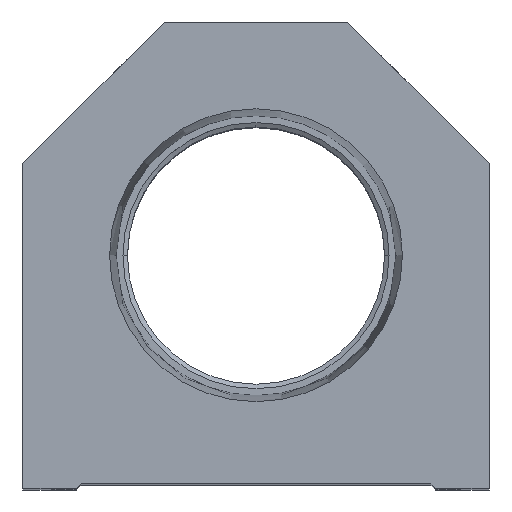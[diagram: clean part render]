
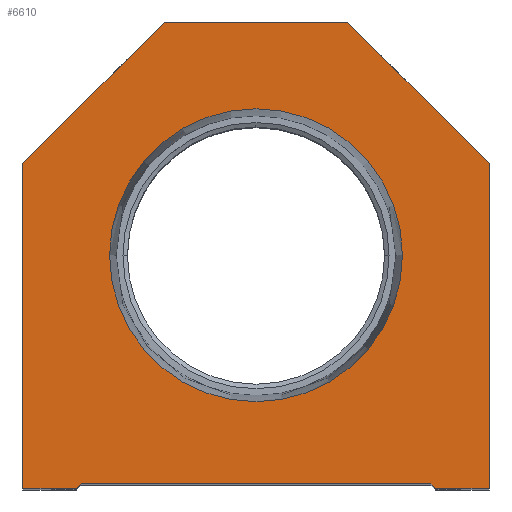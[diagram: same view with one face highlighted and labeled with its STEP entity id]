
A CAD part, top view. The second image highlights one B-rep face of the part: STEP entity #6610.
In plain terms, the highlighted planar face has unit normal (0, 0, 1).
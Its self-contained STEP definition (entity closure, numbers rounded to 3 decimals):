
#149 = CARTESIAN_POINT ( 'NONE',  ( -19.05, 0.5, 0. ) ) ;
#150 = DIRECTION ( 'NONE',  ( 1., 0., 0. ) ) ;
#396 = CIRCLE ( 'NONE', #11651, 15.947 ) ;
#692 = VERTEX_POINT ( 'NONE', #11951 ) ;
#831 = PLANE ( 'NONE',  #16711 ) ;
#1098 = LINE ( 'NONE', #11676, #5513 ) ;
#1297 = VERTEX_POINT ( 'NONE', #7658 ) ;
#1891 = ORIENTED_EDGE ( 'NONE', *, *, #17216, .T. ) ;
#2026 = LINE ( 'NONE', #8727, #9695 ) ;
#2116 = CARTESIAN_POINT ( 'NONE',  ( 25.4, 35.4, 0. ) ) ;
#2133 = CARTESIAN_POINT ( 'NONE',  ( -19.05, 0., 0. ) ) ;
#2238 = DIRECTION ( 'NONE',  ( -0.707, -0.707, 0. ) ) ;
#2300 = EDGE_CURVE ( 'NONE', #16218, #2328, #13150, .T. ) ;
#2312 = CARTESIAN_POINT ( 'NONE',  ( -25.4, 0., 0. ) ) ;
#2328 = VERTEX_POINT ( 'NONE', #11239 ) ;
#2441 = EDGE_CURVE ( 'NONE', #14630, #9903, #14574, .T. ) ;
#2683 = CARTESIAN_POINT ( 'NONE',  ( -25.4, 35.4, 0. ) ) ;
#3220 = DIRECTION ( 'NONE',  ( 1., 0., 0. ) ) ;
#3376 = VERTEX_POINT ( 'NONE', #13042 ) ;
#3558 = EDGE_CURVE ( 'NONE', #8852, #8935, #14697, .T. ) ;
#3800 = VECTOR ( 'NONE', #5813, 1000. ) ;
#3988 = EDGE_LOOP ( 'NONE', ( #7268, #6165 ) ) ;
#4284 = VECTOR ( 'NONE', #10196, 1000. ) ;
#4536 = ORIENTED_EDGE ( 'NONE', *, *, #3558, .T. ) ;
#4634 = LINE ( 'NONE', #15309, #13613 ) ;
#4724 = EDGE_CURVE ( 'NONE', #2328, #16218, #396, .T. ) ;
#4922 = DIRECTION ( 'NONE',  ( 0., 1., 0. ) ) ;
#5028 = EDGE_LOOP ( 'NONE', ( #6852, #13473, #1891, #13112, #15397, #4536, #13441, #5076, #9582, #6524 ) ) ;
#5076 = ORIENTED_EDGE ( 'NONE', *, *, #6825, .T. ) ;
#5513 = VECTOR ( 'NONE', #2238, 1000. ) ;
#5813 = DIRECTION ( 'NONE',  ( 0.707, -0.707, 0. ) ) ;
#6165 = ORIENTED_EDGE ( 'NONE', *, *, #2300, .F. ) ;
#6198 = CARTESIAN_POINT ( 'NONE',  ( -10., 50.8, 0. ) ) ;
#6254 = EDGE_CURVE ( 'NONE', #12950, #14630, #11649, .T. ) ;
#6524 = ORIENTED_EDGE ( 'NONE', *, *, #16664, .T. ) ;
#6610 = ADVANCED_FACE ( 'NONE', ( #7516, #12891 ), #831, .T. ) ;
#6759 = VERTEX_POINT ( 'NONE', #6198 ) ;
#6825 = EDGE_CURVE ( 'NONE', #3376, #6759, #10114, .T. ) ;
#6852 = ORIENTED_EDGE ( 'NONE', *, *, #6254, .T. ) ;
#6895 = DIRECTION ( 'NONE',  ( 1., 0., 0. ) ) ;
#7060 = VECTOR ( 'NONE', #10280, 1000. ) ;
#7166 = DIRECTION ( 'NONE',  ( 0., 0., 1. ) ) ;
#7268 = ORIENTED_EDGE ( 'NONE', *, *, #4724, .F. ) ;
#7282 = LINE ( 'NONE', #10107, #11655 ) ;
#7516 = FACE_BOUND ( 'NONE', #3988, .T. ) ;
#7658 = CARTESIAN_POINT ( 'NONE',  ( 19.55, 0., 0. ) ) ;
#8131 = VERTEX_POINT ( 'NONE', #2683 ) ;
#8727 = CARTESIAN_POINT ( 'NONE',  ( -25.4, 0., 0. ) ) ;
#8852 = VERTEX_POINT ( 'NONE', #15824 ) ;
#8935 = VERTEX_POINT ( 'NONE', #2116 ) ;
#9009 = CARTESIAN_POINT ( 'NONE',  ( -9.775, 9.775, 0. ) ) ;
#9422 = CARTESIAN_POINT ( 'NONE',  ( -19.55, 0., 0. ) ) ;
#9569 = CARTESIAN_POINT ( 'NONE',  ( 0., 25.4, 0. ) ) ;
#9582 = ORIENTED_EDGE ( 'NONE', *, *, #14722, .T. ) ;
#9695 = VECTOR ( 'NONE', #14102, 1000. ) ;
#9903 = VERTEX_POINT ( 'NONE', #149 ) ;
#10063 = CARTESIAN_POINT ( 'NONE',  ( -15.947, 25.4, 0. ) ) ;
#10107 = CARTESIAN_POINT ( 'NONE',  ( 25.4, 35.4, 0. ) ) ;
#10114 = LINE ( 'NONE', #11533, #4284 ) ;
#10196 = DIRECTION ( 'NONE',  ( -1., 0., 0. ) ) ;
#10244 = CARTESIAN_POINT ( 'NONE',  ( 0., 0., 0. ) ) ;
#10280 = DIRECTION ( 'NONE',  ( 1., 0., 0. ) ) ;
#10618 = AXIS2_PLACEMENT_3D ( 'NONE', #9569, #7166, #6895 ) ;
#10666 = DIRECTION ( 'NONE',  ( 0.707, 0.707, 0. ) ) ;
#11239 = CARTESIAN_POINT ( 'NONE',  ( 15.947, 25.4, 0. ) ) ;
#11265 = EDGE_CURVE ( 'NONE', #1297, #8852, #11712, .T. ) ;
#11494 = VECTOR ( 'NONE', #10666, 1000. ) ;
#11533 = CARTESIAN_POINT ( 'NONE',  ( 10., 50.8, 0. ) ) ;
#11555 = DIRECTION ( 'NONE',  ( 1., 0., 0. ) ) ;
#11649 = LINE ( 'NONE', #2133, #11999 ) ;
#11651 = AXIS2_PLACEMENT_3D ( 'NONE', #13517, #12236, #150 ) ;
#11655 = VECTOR ( 'NONE', #12919, 1000. ) ;
#11676 = CARTESIAN_POINT ( 'NONE',  ( -25.4, 35.4, 0. ) ) ;
#11712 = LINE ( 'NONE', #16855, #7060 ) ;
#11951 = CARTESIAN_POINT ( 'NONE',  ( 19.05, 0.5, 0. ) ) ;
#11999 = VECTOR ( 'NONE', #11555, 1000. ) ;
#12236 = DIRECTION ( 'NONE',  ( 0., 0., 1. ) ) ;
#12350 = CARTESIAN_POINT ( 'NONE',  ( 9.775, 9.775, 0. ) ) ;
#12891 = FACE_OUTER_BOUND ( 'NONE', #5028, .T. ) ;
#12919 = DIRECTION ( 'NONE',  ( -0.707, 0.707, 0. ) ) ;
#12950 = VERTEX_POINT ( 'NONE', #2312 ) ;
#13042 = CARTESIAN_POINT ( 'NONE',  ( 10., 50.8, 0. ) ) ;
#13059 = DIRECTION ( 'NONE',  ( 0., 0., 1. ) ) ;
#13112 = ORIENTED_EDGE ( 'NONE', *, *, #16601, .T. ) ;
#13150 = CIRCLE ( 'NONE', #10618, 15.947 ) ;
#13441 = ORIENTED_EDGE ( 'NONE', *, *, #16911, .T. ) ;
#13473 = ORIENTED_EDGE ( 'NONE', *, *, #2441, .T. ) ;
#13517 = CARTESIAN_POINT ( 'NONE',  ( 0., 25.4, 0. ) ) ;
#13613 = VECTOR ( 'NONE', #3220, 1000. ) ;
#13671 = VECTOR ( 'NONE', #4922, 1000. ) ;
#14102 = DIRECTION ( 'NONE',  ( 0., -1., 0. ) ) ;
#14314 = DIRECTION ( 'NONE',  ( 1., 0., 0. ) ) ;
#14574 = LINE ( 'NONE', #9009, #11494 ) ;
#14623 = CARTESIAN_POINT ( 'NONE',  ( 25.4, 0., 0. ) ) ;
#14630 = VERTEX_POINT ( 'NONE', #9422 ) ;
#14697 = LINE ( 'NONE', #14623, #13671 ) ;
#14722 = EDGE_CURVE ( 'NONE', #6759, #8131, #1098, .T. ) ;
#15309 = CARTESIAN_POINT ( 'NONE',  ( -19.05, 0.5, 0. ) ) ;
#15397 = ORIENTED_EDGE ( 'NONE', *, *, #11265, .T. ) ;
#15824 = CARTESIAN_POINT ( 'NONE',  ( 25.4, 0., 0. ) ) ;
#16218 = VERTEX_POINT ( 'NONE', #10063 ) ;
#16524 = LINE ( 'NONE', #12350, #3800 ) ;
#16601 = EDGE_CURVE ( 'NONE', #692, #1297, #16524, .T. ) ;
#16664 = EDGE_CURVE ( 'NONE', #8131, #12950, #2026, .T. ) ;
#16711 = AXIS2_PLACEMENT_3D ( 'NONE', #10244, #13059, #14314 ) ;
#16855 = CARTESIAN_POINT ( 'NONE',  ( 19.05, 0., 0. ) ) ;
#16911 = EDGE_CURVE ( 'NONE', #8935, #3376, #7282, .T. ) ;
#17216 = EDGE_CURVE ( 'NONE', #9903, #692, #4634, .T. ) ;
